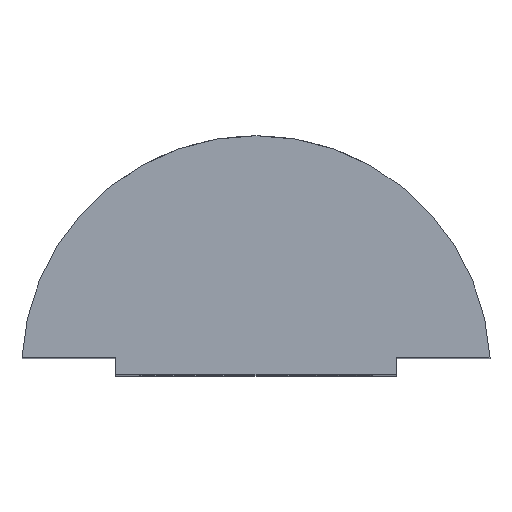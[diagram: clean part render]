
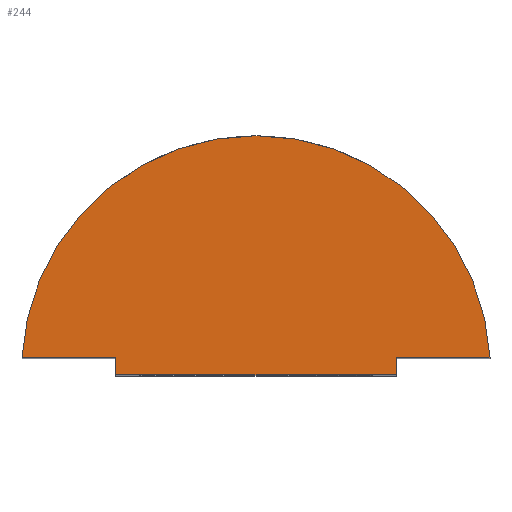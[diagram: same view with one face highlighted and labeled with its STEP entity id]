
A CAD part, top view. The second image highlights one B-rep face of the part: STEP entity #244.
In plain terms, the highlighted planar face has unit normal (0, 0, 1).
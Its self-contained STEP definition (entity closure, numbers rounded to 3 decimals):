
#2 = CIRCLE ( 'NONE', #179, 6.76 ) ;
#7 = CARTESIAN_POINT ( 'NONE',  ( 6.75, 0.5, 11. ) ) ;
#12 = EDGE_CURVE ( 'NONE', #412, #317, #225, .T. ) ;
#19 = DIRECTION ( 'NONE',  ( 1., 0., 0. ) ) ;
#20 = ORIENTED_EDGE ( 'NONE', *, *, #380, .T. ) ;
#23 = VECTOR ( 'NONE', #159, 1000. ) ;
#32 = CARTESIAN_POINT ( 'NONE',  ( 4.05, 0., 11. ) ) ;
#42 = LINE ( 'NONE', #343, #149 ) ;
#46 = CARTESIAN_POINT ( 'NONE',  ( -4.05, 0.5, 11. ) ) ;
#50 = VERTEX_POINT ( 'NONE', #70 ) ;
#64 = CARTESIAN_POINT ( 'NONE',  ( 4.05, 0.5, 11. ) ) ;
#70 = CARTESIAN_POINT ( 'NONE',  ( -6.75, 0.5, 11. ) ) ;
#80 = PLANE ( 'NONE',  #288 ) ;
#87 = CARTESIAN_POINT ( 'NONE',  ( -4.05, 0., 11. ) ) ;
#98 = DIRECTION ( 'NONE',  ( 0., 1., 0. ) ) ;
#115 = VECTOR ( 'NONE', #204, 1000. ) ;
#125 = ORIENTED_EDGE ( 'NONE', *, *, #233, .T. ) ;
#136 = FACE_OUTER_BOUND ( 'NONE', #351, .T. ) ;
#149 = VECTOR ( 'NONE', #234, 1000. ) ;
#156 = VERTEX_POINT ( 'NONE', #232 ) ;
#159 = DIRECTION ( 'NONE',  ( 1., 0., 0. ) ) ;
#178 = CARTESIAN_POINT ( 'NONE',  ( 0., 0.14, 11. ) ) ;
#179 = AXIS2_PLACEMENT_3D ( 'NONE', #261, #401, #227 ) ;
#196 = EDGE_CURVE ( 'NONE', #156, #412, #290, .T. ) ;
#204 = DIRECTION ( 'NONE',  ( 0., -1., 0. ) ) ;
#220 = VERTEX_POINT ( 'NONE', #407 ) ;
#225 = LINE ( 'NONE', #64, #23 ) ;
#227 = DIRECTION ( 'NONE',  ( -1., 0., 0. ) ) ;
#232 = CARTESIAN_POINT ( 'NONE',  ( 4.05, 0., 11. ) ) ;
#233 = EDGE_CURVE ( 'NONE', #317, #50, #2, .T. ) ;
#234 = DIRECTION ( 'NONE',  ( 1., 0., 0. ) ) ;
#239 = DIRECTION ( 'NONE',  ( -1., 0., 0. ) ) ;
#244 = ADVANCED_FACE ( 'NONE', ( #136 ), #80, .F. ) ;
#245 = LINE ( 'NONE', #87, #393 ) ;
#247 = ORIENTED_EDGE ( 'NONE', *, *, #248, .T. ) ;
#248 = EDGE_CURVE ( 'NONE', #220, #360, #268, .T. ) ;
#254 = CARTESIAN_POINT ( 'NONE',  ( 4.05, 0.5, 11. ) ) ;
#261 = CARTESIAN_POINT ( 'NONE',  ( 0., 0.14, 11. ) ) ;
#268 = LINE ( 'NONE', #46, #115 ) ;
#279 = ORIENTED_EDGE ( 'NONE', *, *, #309, .T. ) ;
#288 = AXIS2_PLACEMENT_3D ( 'NONE', #178, #373, #239 ) ;
#290 = LINE ( 'NONE', #32, #372 ) ;
#303 = ORIENTED_EDGE ( 'NONE', *, *, #12, .T. ) ;
#309 = EDGE_CURVE ( 'NONE', #50, #220, #42, .T. ) ;
#312 = ORIENTED_EDGE ( 'NONE', *, *, #196, .T. ) ;
#317 = VERTEX_POINT ( 'NONE', #7 ) ;
#320 = CARTESIAN_POINT ( 'NONE',  ( -4.05, 0., 11. ) ) ;
#343 = CARTESIAN_POINT ( 'NONE',  ( -6.75, 0.5, 11. ) ) ;
#351 = EDGE_LOOP ( 'NONE', ( #125, #279, #247, #20, #312, #303 ) ) ;
#360 = VERTEX_POINT ( 'NONE', #320 ) ;
#372 = VECTOR ( 'NONE', #98, 1000. ) ;
#373 = DIRECTION ( 'NONE',  ( 0., 0., -1. ) ) ;
#380 = EDGE_CURVE ( 'NONE', #360, #156, #245, .T. ) ;
#393 = VECTOR ( 'NONE', #19, 1000. ) ;
#401 = DIRECTION ( 'NONE',  ( 0., 0., 1. ) ) ;
#407 = CARTESIAN_POINT ( 'NONE',  ( -4.05, 0.5, 11. ) ) ;
#412 = VERTEX_POINT ( 'NONE', #254 ) ;
